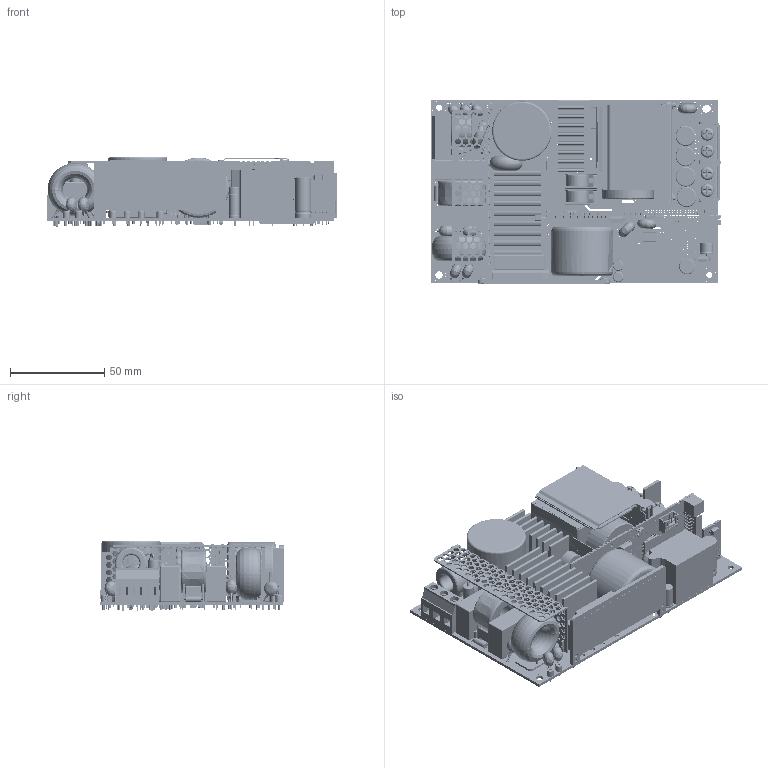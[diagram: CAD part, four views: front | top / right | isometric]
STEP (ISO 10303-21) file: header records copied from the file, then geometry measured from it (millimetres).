
FILE_DESCRIPTION((''),'2;1');
FILE_NAME('CNS65X-MF_SW0001','2016-08-02T',('AlfredoJr.Tolentino'),(''),'CREO PARAMETRIC BY PTC INC, 2015380','CREO PARAMETRIC BY PTC INC, 2015380','');
FILE_SCHEMA(('CONFIG_CONTROL_DESIGN'));
Products named in the file (1): CNS65X-MF_SW0001
Bounding box: 154.3 x 97.42 x 37.52 mm (x, y, z)
Volume: 203687.6 mm3; surface area: 150521.3 mm2
Topology: 17 solids, 20 shells, 13691 faces, 37651 edges, 24341 vertices
Faces by surface type: plane 7012, cylinder 5539, bspline 449, torus 409, cone 172, sphere 96, extrusion 14
Entity records: 676932 total; most frequent: CARTESIAN_POINT 118055, ORIENTED_EDGE 75254, DIRECTION 74900, PRESENTATION_STYLE_ASSIGNMENT 48630, STYLED_ITEM 37660, CURVE_STYLE 37641, EDGE_CURVE 37627, AXIS2_PLACEMENT_3D 25453
